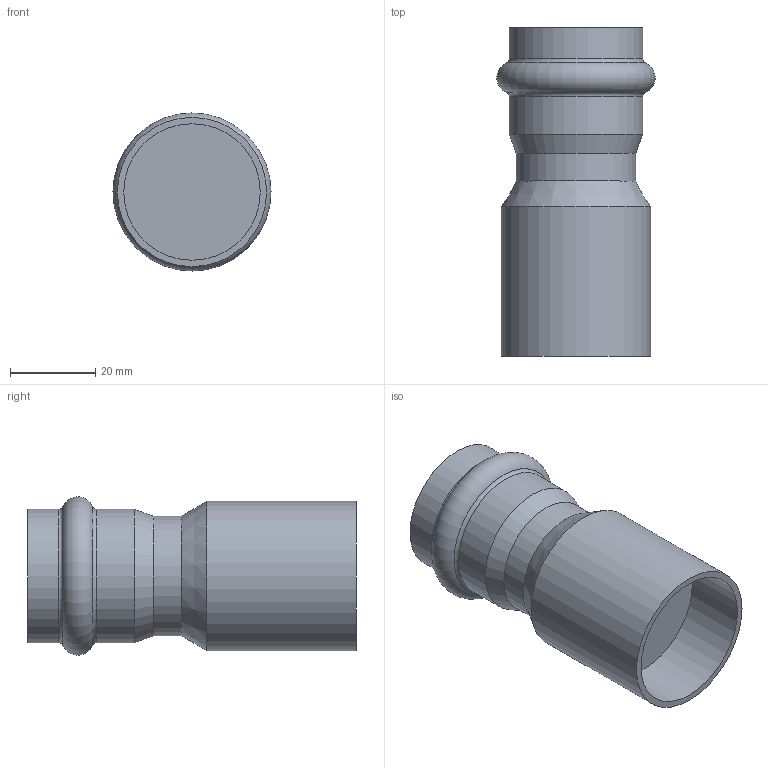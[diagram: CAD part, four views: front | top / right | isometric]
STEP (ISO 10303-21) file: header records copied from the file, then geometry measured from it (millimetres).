
FILE_DESCRIPTION(('STEP AP203'), '1');
FILE_NAME('VTi.905.I.003528', '', ('UNSPECIFIED'), ('UNSPECIFIED'), 'C3D Converter', 'C3D Toolkit', '');
FILE_SCHEMA(('CONFIG_CONTROL_DESIGN'));
Length unit declared in the file: millimetre
Bounding box: 37.09 x 77 x 37.09 mm (x, y, z)
Volume: 49748.2 mm3; surface area: 12248 mm2
Topology: 1 solids, 1 shells, 15 faces, 26 edges, 15 vertices
Faces by surface type: cylinder 6, plane 4, torus 3, cone 2
Full cylindrical faces by diameter (mm): 28 x1, 28.3 x1, 31.26 x2, 32 x1, 35 x1
Entity records: 344 total; most frequent: DIRECTION 62, CARTESIAN_POINT 46, AXIS2_PLACEMENT_3D 31, ORIENTED_EDGE 30, EDGE_LOOP 28, FACE_OUTER_BOUND 20, ADVANCED_FACE 15, EDGE_CURVE 15
